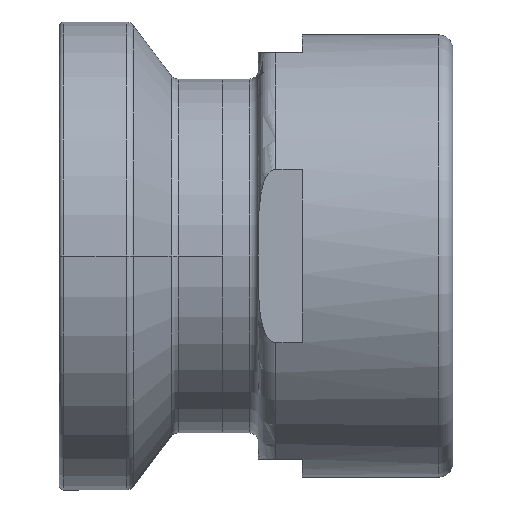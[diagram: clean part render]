
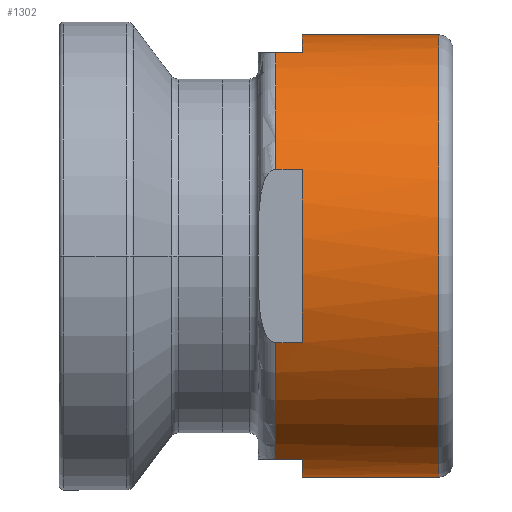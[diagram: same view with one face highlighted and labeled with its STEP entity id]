
A CAD part, front view. The second image highlights one B-rep face of the part: STEP entity #1302.
In plain terms, the highlighted cylindrical face has radius 39.688 mm (diameter 79.375 mm), a partial arc.
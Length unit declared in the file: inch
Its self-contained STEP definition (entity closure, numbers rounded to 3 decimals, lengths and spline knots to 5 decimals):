
#63 = CARTESIAN_POINT ( 'NONE',  ( 0.61237, 0.47592, 1.4375 ) ) ;
#78 = DIRECTION ( 'NONE',  ( 0., 0., 1. ) ) ;
#81 = EDGE_CURVE ( 'NONE', #1494, #1525, #319, .T. ) ;
#96 = DIRECTION ( 'NONE',  ( 0., -1., 0. ) ) ;
#125 = CARTESIAN_POINT ( 'NONE',  ( 0., 1.62592, -1.5625 ) ) ;
#165 = EDGE_CURVE ( 'NONE', #1774, #1494, #1328, .T. ) ;
#180 = DIRECTION ( 'NONE',  ( 0., 0., -1. ) ) ;
#183 = ORIENTED_EDGE ( 'NONE', *, *, #324, .T. ) ;
#198 = EDGE_CURVE ( 'NONE', #1847, #276, #1181, .T. ) ;
#202 = CARTESIAN_POINT ( 'NONE',  ( 1.4375, 0.66292, 0.61237 ) ) ;
#203 = AXIS2_PLACEMENT_3D ( 'NONE', #415, #236, #1673 ) ;
#218 = DIRECTION ( 'NONE',  ( 0., 1., 0. ) ) ;
#236 = DIRECTION ( 'NONE',  ( 0., 1., 0. ) ) ;
#246 = LINE ( 'NONE', #565, #1274 ) ;
#263 = DIRECTION ( 'NONE',  ( 0., 1., 0. ) ) ;
#276 = VERTEX_POINT ( 'NONE', #1937 ) ;
#319 = CIRCLE ( 'NONE', #716, 1.5625 ) ;
#324 = EDGE_CURVE ( 'NONE', #1525, #1078, #1683, .T. ) ;
#334 = DIRECTION ( 'NONE',  ( 0., 0., -1. ) ) ;
#344 = DIRECTION ( 'NONE',  ( 0., -1., 0. ) ) ;
#415 = CARTESIAN_POINT ( 'NONE',  ( 0., 0.66292, 0. ) ) ;
#419 = EDGE_CURVE ( 'NONE', #1909, #276, #246, .T. ) ;
#455 = VERTEX_POINT ( 'NONE', #458 ) ;
#457 = CARTESIAN_POINT ( 'NONE',  ( 0.61237, 0.66292, -1.4375 ) ) ;
#458 = CARTESIAN_POINT ( 'NONE',  ( 0.61237, 0.47592, -1.4375 ) ) ;
#490 = CARTESIAN_POINT ( 'NONE',  ( 0., 0.66292, 1.5625 ) ) ;
#498 = ORIENTED_EDGE ( 'NONE', *, *, #198, .T. ) ;
#525 = CIRCLE ( 'NONE', #1419, 1.5625 ) ;
#537 = DIRECTION ( 'NONE',  ( 0., 1., 0. ) ) ;
#553 = VECTOR ( 'NONE', #1351, 39.37008 ) ;
#565 = CARTESIAN_POINT ( 'NONE',  ( 0., 0., -1.5625 ) ) ;
#582 = EDGE_CURVE ( 'NONE', #1909, #1090, #1083, .T. ) ;
#602 = ORIENTED_EDGE ( 'NONE', *, *, #582, .T. ) ;
#637 = DIRECTION ( 'NONE',  ( 0., -1., 0. ) ) ;
#659 = CARTESIAN_POINT ( 'NONE',  ( 0., 1.62592, 0. ) ) ;
#696 = ORIENTED_EDGE ( 'NONE', *, *, #1533, .F. ) ;
#700 = DIRECTION ( 'NONE',  ( 0., 0., 1. ) ) ;
#707 = CARTESIAN_POINT ( 'NONE',  ( 0., 1.62592, 1.5625 ) ) ;
#716 = AXIS2_PLACEMENT_3D ( 'NONE', #1942, #218, #78 ) ;
#736 = ORIENTED_EDGE ( 'NONE', *, *, #1240, .F. ) ;
#741 = DIRECTION ( 'NONE',  ( 0., -1., 0. ) ) ;
#748 = CARTESIAN_POINT ( 'NONE',  ( 0.61237, 0.66292, 1.4375 ) ) ;
#790 = LINE ( 'NONE', #1429, #1854 ) ;
#792 = CARTESIAN_POINT ( 'NONE',  ( 1.4375, 0.66292, -0.61237 ) ) ;
#806 = AXIS2_PLACEMENT_3D ( 'NONE', #1799, #263, #700 ) ;
#816 = ORIENTED_EDGE ( 'NONE', *, *, #1570, .T. ) ;
#825 = CARTESIAN_POINT ( 'NONE',  ( 0.61237, 0., -1.4375 ) ) ;
#834 = LINE ( 'NONE', #825, #1486 ) ;
#876 = CARTESIAN_POINT ( 'NONE',  ( 1.4375, 0.47592, 0.61237 ) ) ;
#891 = DIRECTION ( 'NONE',  ( 0., 0., -1. ) ) ;
#898 = AXIS2_PLACEMENT_3D ( 'NONE', #1993, #1534, #1376 ) ;
#900 = CYLINDRICAL_SURFACE ( 'NONE', #898, 1.5625 ) ;
#946 = VECTOR ( 'NONE', #1947, 39.37008 ) ;
#970 = DIRECTION ( 'NONE',  ( 0., -1., 0. ) ) ;
#1016 = CARTESIAN_POINT ( 'NONE',  ( 0.61237, 0., 1.4375 ) ) ;
#1018 = ORIENTED_EDGE ( 'NONE', *, *, #419, .F. ) ;
#1052 = CARTESIAN_POINT ( 'NONE',  ( 0., 0.47592, 0. ) ) ;
#1056 = EDGE_LOOP ( 'NONE', ( #602, #1901, #1375, #1548, #736, #1923, #1645, #183, #696, #816, #498, #1018 ) ) ;
#1078 = VERTEX_POINT ( 'NONE', #1734 ) ;
#1083 = CIRCLE ( 'NONE', #1770, 1.5625 ) ;
#1088 = EDGE_CURVE ( 'NONE', #1922, #1891, #1788, .T. ) ;
#1090 = VERTEX_POINT ( 'NONE', #707 ) ;
#1181 = CIRCLE ( 'NONE', #806, 1.5625 ) ;
#1220 = CARTESIAN_POINT ( 'NONE',  ( 1.4375, 0., -0.61237 ) ) ;
#1240 = EDGE_CURVE ( 'NONE', #1774, #1595, #1954, .T. ) ;
#1274 = VECTOR ( 'NONE', #96, 39.37008 ) ;
#1302 = ADVANCED_FACE ( 'NONE', ( #1563 ), #900, .T. ) ;
#1320 = LINE ( 'NONE', #1016, #946 ) ;
#1328 = LINE ( 'NONE', #1676, #553 ) ;
#1351 = DIRECTION ( 'NONE',  ( 0., 1., 0. ) ) ;
#1375 = ORIENTED_EDGE ( 'NONE', *, *, #1088, .T. ) ;
#1376 = DIRECTION ( 'NONE',  ( 0., 0., -1. ) ) ;
#1419 = AXIS2_PLACEMENT_3D ( 'NONE', #1747, #344, #334 ) ;
#1429 = CARTESIAN_POINT ( 'NONE',  ( 0., 0., 1.5625 ) ) ;
#1486 = VECTOR ( 'NONE', #537, 39.37008 ) ;
#1494 = VERTEX_POINT ( 'NONE', #202 ) ;
#1509 = DIRECTION ( 'NONE',  ( 0., -1., 0. ) ) ;
#1525 = VERTEX_POINT ( 'NONE', #792 ) ;
#1533 = EDGE_CURVE ( 'NONE', #455, #1078, #525, .T. ) ;
#1534 = DIRECTION ( 'NONE',  ( 0., -1., 0. ) ) ;
#1548 = ORIENTED_EDGE ( 'NONE', *, *, #1616, .T. ) ;
#1563 = FACE_OUTER_BOUND ( 'NONE', #1056, .T. ) ;
#1570 = EDGE_CURVE ( 'NONE', #455, #1847, #834, .T. ) ;
#1590 = AXIS2_PLACEMENT_3D ( 'NONE', #1052, #741, #891 ) ;
#1595 = VERTEX_POINT ( 'NONE', #63 ) ;
#1616 = EDGE_CURVE ( 'NONE', #1891, #1595, #1320, .T. ) ;
#1645 = ORIENTED_EDGE ( 'NONE', *, *, #81, .T. ) ;
#1673 = DIRECTION ( 'NONE',  ( 0., 0., 1. ) ) ;
#1676 = CARTESIAN_POINT ( 'NONE',  ( 1.4375, 0., 0.61237 ) ) ;
#1683 = LINE ( 'NONE', #1220, #1766 ) ;
#1734 = CARTESIAN_POINT ( 'NONE',  ( 1.4375, 0.47592, -0.61237 ) ) ;
#1747 = CARTESIAN_POINT ( 'NONE',  ( 0., 0.47592, 0. ) ) ;
#1766 = VECTOR ( 'NONE', #1509, 39.37008 ) ;
#1770 = AXIS2_PLACEMENT_3D ( 'NONE', #659, #970, #180 ) ;
#1774 = VERTEX_POINT ( 'NONE', #876 ) ;
#1788 = CIRCLE ( 'NONE', #203, 1.5625 ) ;
#1799 = CARTESIAN_POINT ( 'NONE',  ( 0., 0.66292, 0. ) ) ;
#1847 = VERTEX_POINT ( 'NONE', #457 ) ;
#1854 = VECTOR ( 'NONE', #637, 39.37008 ) ;
#1891 = VERTEX_POINT ( 'NONE', #748 ) ;
#1901 = ORIENTED_EDGE ( 'NONE', *, *, #2019, .T. ) ;
#1909 = VERTEX_POINT ( 'NONE', #125 ) ;
#1922 = VERTEX_POINT ( 'NONE', #490 ) ;
#1923 = ORIENTED_EDGE ( 'NONE', *, *, #165, .T. ) ;
#1937 = CARTESIAN_POINT ( 'NONE',  ( 0., 0.66292, -1.5625 ) ) ;
#1942 = CARTESIAN_POINT ( 'NONE',  ( 0., 0.66292, 0. ) ) ;
#1947 = DIRECTION ( 'NONE',  ( 0., -1., 0. ) ) ;
#1954 = CIRCLE ( 'NONE', #1590, 1.5625 ) ;
#1993 = CARTESIAN_POINT ( 'NONE',  ( 0., 0., 0. ) ) ;
#2019 = EDGE_CURVE ( 'NONE', #1090, #1922, #790, .T. ) ;
